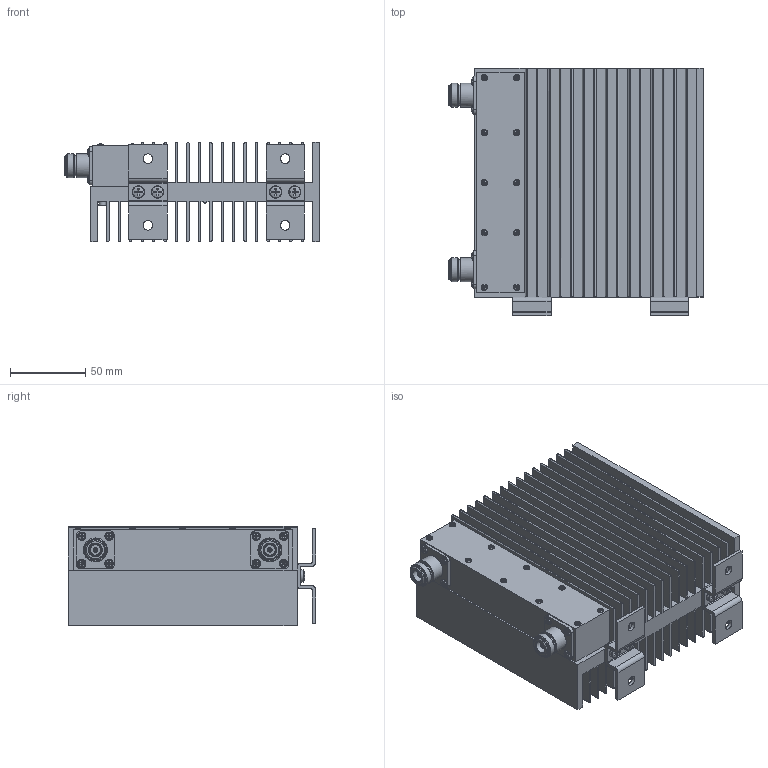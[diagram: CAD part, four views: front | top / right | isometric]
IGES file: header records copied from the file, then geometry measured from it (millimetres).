
Start section: C
Global section: file name: 100-A-FFN-XX_RevC_IGES.igs; native system: By Siemens PLM Incorporated; preprocessor: XPlus GENERIC/IGES 19.0.9; author: Author; organization: Title; date: 20180626.124905; units: millimetre
Bounding box: 169.91 x 164.85 x 66.04 mm (x, y, z)
Surface area: 380902.8 mm2 (no closed solid volume)
Topology: 0 solids, 0 shells, 1165 faces, 7048 edges, 7010 vertices
Faces by surface type: bspline 1165
